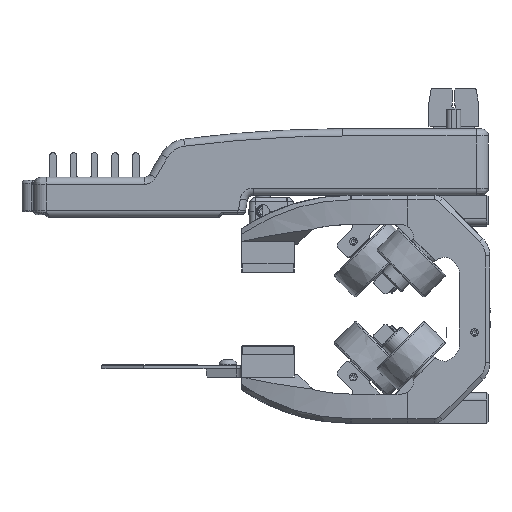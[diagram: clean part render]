
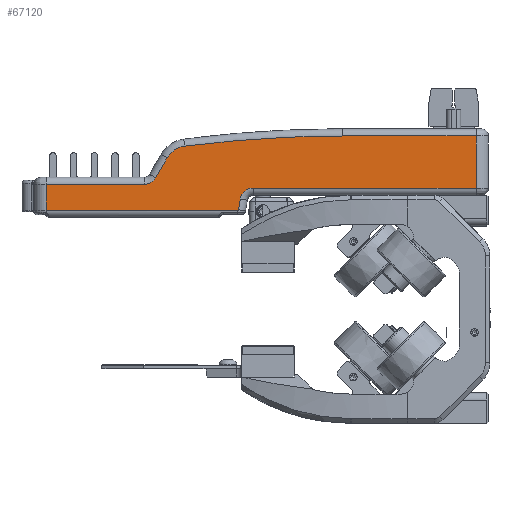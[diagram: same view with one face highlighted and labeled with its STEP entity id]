
A CAD part, front view. The second image highlights one B-rep face of the part: STEP entity #67120.
In plain terms, the highlighted planar face has unit normal (0, -1, 0).
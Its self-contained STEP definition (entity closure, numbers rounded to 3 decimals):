
#3100=CIRCLE('',#71618,0.2);
#3112=CIRCLE('',#71644,4.3);
#3129=CIRCLE('',#71671,397.7);
#3132=CIRCLE('',#71675,7.7);
#3136=CIRCLE('',#71681,4.3);
#6393=FACE_OUTER_BOUND('',#10328,.T.);
#10328=EDGE_LOOP('',(#47349,#47350,#47351,#47352,#47353,#47354,#47355,#47356,
#47357,#47358,#47359,#47360,#47361));
#15544=LINE('',#101712,#21847);
#15554=LINE('',#101861,#21857);
#15556=LINE('',#101873,#21859);
#15561=LINE('',#101897,#21864);
#15568=LINE('',#101936,#21871);
#15569=LINE('',#101953,#21872);
#15571=LINE('',#101965,#21874);
#15580=LINE('',#101995,#21883);
#21847=VECTOR('',#81231,10.);
#21857=VECTOR('',#81297,10.);
#21859=VECTOR('',#81311,10.);
#21864=VECTOR('',#81328,10.);
#21871=VECTOR('',#81365,10.);
#21872=VECTOR('',#81386,10.);
#21874=VECTOR('',#81400,10.);
#21883=VECTOR('',#81429,10.);
#27835=VERTEX_POINT('',#101709);
#27836=VERTEX_POINT('',#101711);
#27840=VERTEX_POINT('',#101733);
#27850=VERTEX_POINT('',#101859);
#27852=VERTEX_POINT('',#101865);
#27854=VERTEX_POINT('',#101871);
#27858=VERTEX_POINT('',#101895);
#27866=VERTEX_POINT('',#101934);
#27868=VERTEX_POINT('',#101939);
#27870=VERTEX_POINT('',#101945);
#27872=VERTEX_POINT('',#101951);
#27874=VERTEX_POINT('',#101957);
#27876=VERTEX_POINT('',#101963);
#34873=EDGE_CURVE('',#27835,#27836,#15544,.T.);
#34879=EDGE_CURVE('',#27840,#27835,#3100,.T.);
#34903=EDGE_CURVE('',#27850,#27840,#15554,.T.);
#34906=EDGE_CURVE('',#27852,#27850,#3112,.T.);
#34909=EDGE_CURVE('',#27854,#27852,#15556,.T.);
#34918=EDGE_CURVE('',#27858,#27854,#15561,.T.);
#34934=EDGE_CURVE('',#27866,#27858,#15568,.T.);
#34936=EDGE_CURVE('',#27868,#27866,#3129,.T.);
#34939=EDGE_CURVE('',#27870,#27868,#3132,.T.);
#34942=EDGE_CURVE('',#27872,#27870,#15569,.T.);
#34945=EDGE_CURVE('',#27874,#27872,#3136,.T.);
#34948=EDGE_CURVE('',#27876,#27874,#15571,.T.);
#34960=EDGE_CURVE('',#27836,#27876,#15580,.T.);
#47349=ORIENTED_EDGE('',*,*,#34909,.F.);
#47350=ORIENTED_EDGE('',*,*,#34918,.F.);
#47351=ORIENTED_EDGE('',*,*,#34934,.F.);
#47352=ORIENTED_EDGE('',*,*,#34936,.F.);
#47353=ORIENTED_EDGE('',*,*,#34939,.F.);
#47354=ORIENTED_EDGE('',*,*,#34942,.F.);
#47355=ORIENTED_EDGE('',*,*,#34945,.F.);
#47356=ORIENTED_EDGE('',*,*,#34948,.F.);
#47357=ORIENTED_EDGE('',*,*,#34960,.F.);
#47358=ORIENTED_EDGE('',*,*,#34873,.F.);
#47359=ORIENTED_EDGE('',*,*,#34879,.F.);
#47360=ORIENTED_EDGE('',*,*,#34903,.F.);
#47361=ORIENTED_EDGE('',*,*,#34906,.F.);
#62050=PLANE('',#71694);
#67120=ADVANCED_FACE('',(#6393),#62050,.T.);
#71618=AXIS2_PLACEMENT_3D('',#101735,#81240,#81241);
#71644=AXIS2_PLACEMENT_3D('',#101867,#81303,#81304);
#71671=AXIS2_PLACEMENT_3D('',#101941,#81370,#81371);
#71675=AXIS2_PLACEMENT_3D('',#101947,#81378,#81379);
#71681=AXIS2_PLACEMENT_3D('',#101959,#81392,#81393);
#71694=AXIS2_PLACEMENT_3D('',#101994,#81427,#81428);
#81231=DIRECTION('',(-1.,0.,0.));
#81240=DIRECTION('center_axis',(0.,1.,0.));
#81241=DIRECTION('ref_axis',(0.643,0.,-0.766));
#81297=DIRECTION('',(-0.174,0.,-0.985));
#81303=DIRECTION('center_axis',(0.,-1.,0.));
#81304=DIRECTION('ref_axis',(-0.643,0.,0.766));
#81311=DIRECTION('',(-1.,0.,0.));
#81328=DIRECTION('',(0.,0.,-1.));
#81365=DIRECTION('',(1.,0.,0.));
#81370=DIRECTION('center_axis',(0.,1.,0.));
#81371=DIRECTION('ref_axis',(-0.065,0.,0.998));
#81378=DIRECTION('center_axis',(0.,1.,0.));
#81379=DIRECTION('ref_axis',(-0.555,0.,0.832));
#81386=DIRECTION('',(0.5,0.,0.866));
#81392=DIRECTION('center_axis',(0.,-1.,0.));
#81393=DIRECTION('ref_axis',(0.5,0.,-0.866));
#81400=DIRECTION('',(1.,0.,0.));
#81427=DIRECTION('center_axis',(0.,-1.,0.));
#81428=DIRECTION('ref_axis',(0.,0.,-1.));
#81429=DIRECTION('',(0.,0.,1.));
#101709=CARTESIAN_POINT('',(-15.082,-31.85,-19.9));
#101711=CARTESIAN_POINT('',(-77.3,-31.85,-19.9));
#101712=CARTESIAN_POINT('',(-44.425,-31.85,-19.9));
#101733=CARTESIAN_POINT('',(-14.885,-31.85,-19.735));
#101735=CARTESIAN_POINT('Origin',(-15.082,-31.85,-19.7));
#101859=CARTESIAN_POINT('',(-14.271,-31.85,-16.253));
#101861=CARTESIAN_POINT('',(-13.704,-31.85,-13.034));
#101865=CARTESIAN_POINT('',(-10.037,-31.85,-12.7));
#101867=CARTESIAN_POINT('Origin',(-10.037,-31.85,-17.));
#101871=CARTESIAN_POINT('',(62.2,-31.85,-12.7));
#101873=CARTESIAN_POINT('',(-7.175,-31.85,-12.7));
#101895=CARTESIAN_POINT('',(62.2,-31.85,4.2));
#101897=CARTESIAN_POINT('',(62.2,-31.85,-9.95));
#101934=CARTESIAN_POINT('',(18.882,-31.85,4.2));
#101936=CARTESIAN_POINT('',(29.325,-31.85,4.2));
#101939=CARTESIAN_POINT('',(-32.328,-31.85,0.889));
#101941=CARTESIAN_POINT('Origin',(18.882,-31.85,-393.5));
#101945=CARTESIAN_POINT('',(-38.005,-31.85,-2.897));
#101947=CARTESIAN_POINT('Origin',(-31.337,-31.85,-6.747));
#101951=CARTESIAN_POINT('',(-41.731,-31.85,-9.35));
#101953=CARTESIAN_POINT('',(-33.406,-31.85,5.069));
#101957=CARTESIAN_POINT('',(-45.455,-31.85,-11.5));
#101959=CARTESIAN_POINT('Origin',(-45.455,-31.85,-7.2));
#101963=CARTESIAN_POINT('',(-77.3,-31.85,-11.5));
#101965=CARTESIAN_POINT('',(-25.925,-31.85,-11.5));
#101994=CARTESIAN_POINT('Origin',(-7.55,-31.85,-4.9));
#101995=CARTESIAN_POINT('',(-77.3,-31.85,-7.05));
